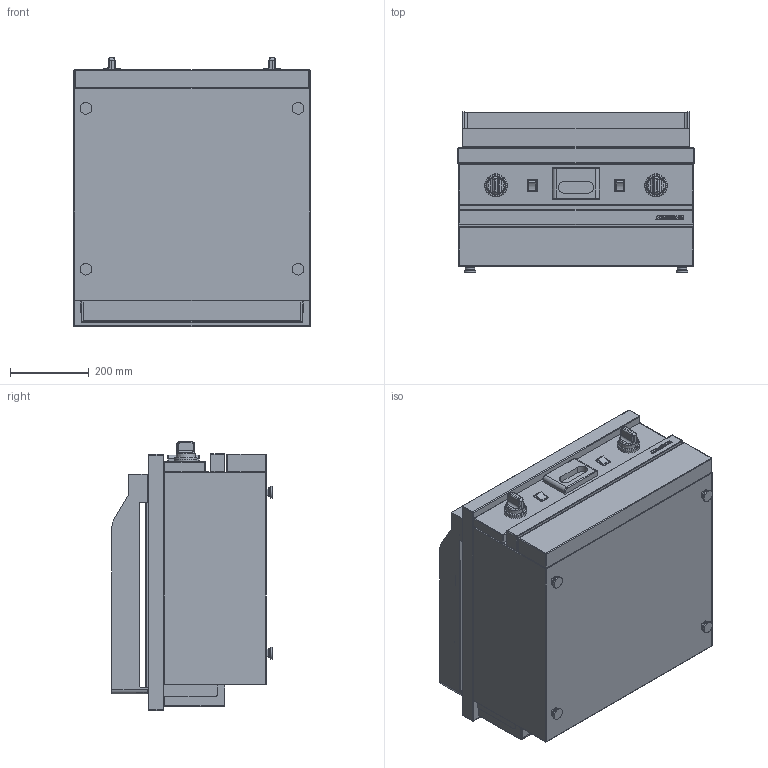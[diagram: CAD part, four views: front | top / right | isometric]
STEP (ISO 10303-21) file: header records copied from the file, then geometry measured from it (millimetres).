
FILE_DESCRIPTION((''),'2;1');
FILE_NAME('CSE610SLRC_EXPORT_STEP_ASM','2017-11-22T',('r.avril'),(''),'PRO/ENGINEER BY PARAMETRIC TECHNOLOGY CORPORATION, 2014200','PRO/ENGINEER BY PARAMETRIC TECHNOLOGY CORPORATION, 2014200','');
FILE_SCHEMA(('AP203_CONFIGURATION_CONTROLLED_3D_DESIGN_OF_MECHANICAL_PARTS_AND_ASSEMBLIES_MIM_LF { 1 0 10303 403 2 1 2 }'));
Length unit declared in the file: millimetre
Products named in the file (11): SNACKS_AMB_600_EXPORT_STEP; TABLE_610_GRILLADE; TABLE_610_GRILLADE_ASM; MANETTE_AMB_EXPORT_STEP; TIROIR_GRILLADE_EXPORT_STEP; BASCULEUR_AMB_EXPORT_DXF; CEINTURE_PLAQUE_GRILLADE_600; 50288900; 50293100; 65070010_ASM; CSE610SLRC_EXPORT_STEP_ASM
Assembly tree (12 placements, depth 3):
  CSE610SLRC_EXPORT_STEP_ASM
    SNACKS_AMB_600_EXPORT_STEP
    TABLE_610_GRILLADE_ASM
      TABLE_610_GRILLADE
    MANETTE_AMB_EXPORT_STEP  x2
    TIROIR_GRILLADE_EXPORT_STEP
    BASCULEUR_AMB_EXPORT_DXF  x2
    65070010_ASM
      CEINTURE_PLAQUE_GRILLADE_600
      50288900
      50293100
Bounding box: 600 x 407.33 x 682.5 mm (x, y, z)
Volume: 53113947.2 mm3; surface area: 4140161.4 mm2
Topology: 15 solids, 41 shells, 741 faces, 2470 edges, 2029 vertices
Faces by surface type: plane 292, cylinder 227, cone 102, sphere 48, torus 48, bspline 24
Entity records: 32611 total; most frequent: CARTESIAN_POINT 8235, DIRECTION 3965, ORIENTED_EDGE 3643, EDGE_CURVE 2062, VERTEX_POINT 1458, AXIS2_PLACEMENT_3D 1367, VECTOR 1198, LINE 1198
